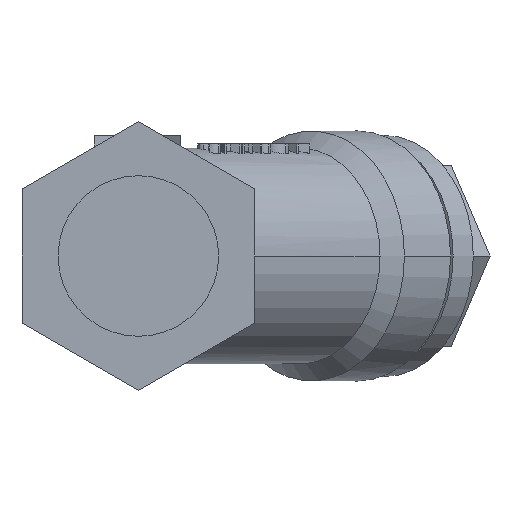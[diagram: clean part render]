
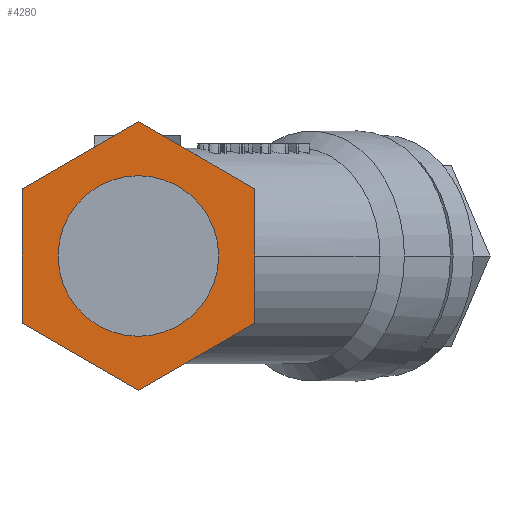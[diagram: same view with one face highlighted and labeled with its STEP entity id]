
A CAD part, left-side view. The second image highlights one B-rep face of the part: STEP entity #4280.
In plain terms, the highlighted planar face has unit normal (-1, 0, 0).
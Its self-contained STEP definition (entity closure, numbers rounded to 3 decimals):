
#4183 = VERTEX_POINT ( 'NONE', #6066 ) ;
#4221 = VERTEX_POINT ( 'NONE', #6137 ) ;
#4227 = EDGE_CURVE ( 'NONE', #4260, #4251, #6126, .T. ) ;
#4241 = EDGE_CURVE ( 'NONE', #4242, #4183, #6106, .T. ) ;
#4242 = VERTEX_POINT ( 'NONE', #6168 ) ;
#4250 = EDGE_CURVE ( 'NONE', #4251, #4242, #6157, .T. ) ;
#4251 = VERTEX_POINT ( 'NONE', #6153 ) ;
#4260 = VERTEX_POINT ( 'NONE', #6142 ) ;
#4272 = EDGE_LOOP ( 'NONE', ( #4296, #4288 ) ) ;
#4273 = VERTEX_POINT ( 'NONE', #6223 ) ;
#4274 = ORIENTED_EDGE ( 'NONE', *, *, #4282, .T. ) ;
#4277 = ORIENTED_EDGE ( 'NONE', *, *, #4250, .T. ) ;
#4280 = ADVANCED_FACE ( 'NONE', ( #6218, #6217 ), #6216, .F. ) ;
#4281 = EDGE_CURVE ( 'NONE', #4322, #4324, #6211, .T. ) ;
#4282 = EDGE_CURVE ( 'NONE', #4273, #4221, #6205, .T. ) ;
#4288 = ORIENTED_EDGE ( 'NONE', *, *, #4308, .F. ) ;
#4289 = EDGE_LOOP ( 'NONE', ( #4274, #4298, #4299, #4277, #5838, #5844 ) ) ;
#4293 = EDGE_CURVE ( 'NONE', #4183, #4273, #6266, .T. ) ;
#4296 = ORIENTED_EDGE ( 'NONE', *, *, #4281, .F. ) ;
#4298 = ORIENTED_EDGE ( 'NONE', *, *, #4302, .T. ) ;
#4299 = ORIENTED_EDGE ( 'NONE', *, *, #4227, .T. ) ;
#4302 = EDGE_CURVE ( 'NONE', #4221, #4260, #6256, .T. ) ;
#4308 = EDGE_CURVE ( 'NONE', #4324, #4322, #6246, .T. ) ;
#4322 = VERTEX_POINT ( 'NONE', #6277 ) ;
#4324 = VERTEX_POINT ( 'NONE', #6276 ) ;
#5838 = ORIENTED_EDGE ( 'NONE', *, *, #4241, .T. ) ;
#5844 = ORIENTED_EDGE ( 'NONE', *, *, #4293, .T. ) ;
#6066 = CARTESIAN_POINT ( 'NONE',  ( -22.5, -13.5, -7.794 ) ) ;
#6106 = LINE ( 'NONE', #6171, #6170 ) ;
#6123 = DIRECTION ( 'NONE',  ( 0., 0., -1. ) ) ;
#6124 = VECTOR ( 'NONE', #6123, 1000. ) ;
#6125 = CARTESIAN_POINT ( 'NONE',  ( -22.5, 13.5, 7.794 ) ) ;
#6126 = LINE ( 'NONE', #6125, #6124 ) ;
#6137 = CARTESIAN_POINT ( 'NONE',  ( -22.5, 0., 15.588 ) ) ;
#6142 = CARTESIAN_POINT ( 'NONE',  ( -22.5, 13.5, 7.794 ) ) ;
#6153 = CARTESIAN_POINT ( 'NONE',  ( -22.5, 13.5, -7.794 ) ) ;
#6154 = DIRECTION ( 'NONE',  ( 0., -0.866, -0.5 ) ) ;
#6155 = VECTOR ( 'NONE', #6154, 1000. ) ;
#6156 = CARTESIAN_POINT ( 'NONE',  ( -22.5, 13.5, -7.794 ) ) ;
#6157 = LINE ( 'NONE', #6156, #6155 ) ;
#6168 = CARTESIAN_POINT ( 'NONE',  ( -22.5, 0., -15.588 ) ) ;
#6169 = DIRECTION ( 'NONE',  ( 0., -0.866, 0.5 ) ) ;
#6170 = VECTOR ( 'NONE', #6169, 1000. ) ;
#6171 = CARTESIAN_POINT ( 'NONE',  ( -22.5, 0., -15.588 ) ) ;
#6202 = DIRECTION ( 'NONE',  ( 0., 0.866, 0.5 ) ) ;
#6203 = VECTOR ( 'NONE', #6202, 1000. ) ;
#6204 = CARTESIAN_POINT ( 'NONE',  ( -22.5, -13.5, 7.794 ) ) ;
#6205 = LINE ( 'NONE', #6204, #6203 ) ;
#6206 = DIRECTION ( 'NONE',  ( 0., 0., 1. ) ) ;
#6207 = DIRECTION ( 'NONE',  ( -1., 0., 0. ) ) ;
#6208 = CARTESIAN_POINT ( 'NONE',  ( -22.5, 0., 0. ) ) ;
#6210 = AXIS2_PLACEMENT_3D ( 'NONE', #6208, #6207, #6206 ) ;
#6211 = CIRCLE ( 'NONE', #6210, 9.315 ) ;
#6212 = DIRECTION ( 'NONE',  ( 0., 0., -1. ) ) ;
#6213 = DIRECTION ( 'NONE',  ( 1., 0., 0. ) ) ;
#6214 = CARTESIAN_POINT ( 'NONE',  ( -22.5, 0., 0. ) ) ;
#6215 = AXIS2_PLACEMENT_3D ( 'NONE', #6214, #6213, #6212 ) ;
#6216 = PLANE ( 'NONE',  #6215 ) ;
#6217 = FACE_OUTER_BOUND ( 'NONE', #4289, .T. ) ;
#6218 = FACE_BOUND ( 'NONE', #4272, .T. ) ;
#6223 = CARTESIAN_POINT ( 'NONE',  ( -22.5, -13.5, 7.794 ) ) ;
#6242 = DIRECTION ( 'NONE',  ( 0., 0., 1. ) ) ;
#6243 = DIRECTION ( 'NONE',  ( -1., 0., 0. ) ) ;
#6244 = CARTESIAN_POINT ( 'NONE',  ( -22.5, 0., 0. ) ) ;
#6245 = AXIS2_PLACEMENT_3D ( 'NONE', #6244, #6243, #6242 ) ;
#6246 = CIRCLE ( 'NONE', #6245, 9.315 ) ;
#6253 = DIRECTION ( 'NONE',  ( 0., 0.866, -0.5 ) ) ;
#6254 = VECTOR ( 'NONE', #6253, 1000. ) ;
#6255 = CARTESIAN_POINT ( 'NONE',  ( -22.5, 0., 15.588 ) ) ;
#6256 = LINE ( 'NONE', #6255, #6254 ) ;
#6263 = DIRECTION ( 'NONE',  ( 0., 0., 1. ) ) ;
#6264 = VECTOR ( 'NONE', #6263, 1000. ) ;
#6265 = CARTESIAN_POINT ( 'NONE',  ( -22.5, -13.5, -7.794 ) ) ;
#6266 = LINE ( 'NONE', #6265, #6264 ) ;
#6276 = CARTESIAN_POINT ( 'NONE',  ( -22.5, 0., -9.315 ) ) ;
#6277 = CARTESIAN_POINT ( 'NONE',  ( -22.5, 0., 9.315 ) ) ;
